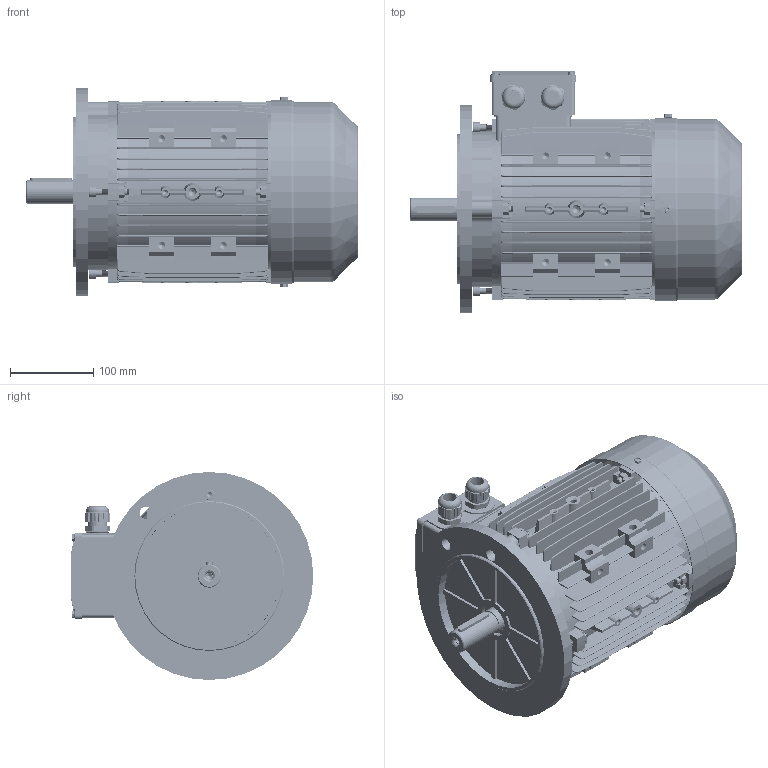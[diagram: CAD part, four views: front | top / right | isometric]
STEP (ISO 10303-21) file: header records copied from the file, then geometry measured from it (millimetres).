
FILE_DESCRIPTION (( 'STEP AP203' ), '1' );
FILE_NAME ('MSL112L assembly B5.STEP', '2017-11-26T09:59:11', ( 'user' ), ( 'china' ), 'SwSTEP 2.0', 'SolidWorks 2016', '' );
FILE_SCHEMA (( 'CONFIG_CONTROL_DESIGN' ));
Length unit declared in the file: millimetre
Products named in the file (16): GB-T 41-2000 M8; M112-132諉盄碟(苤); MSL112L assembly B5; M112傷裔B3_Post; GB-T 5780-2000 M8_040; M112-Shaft drive end; M112傷裔B5; MS132諉盄碟釱(苤)_2Holes; MS112 綴裔瑞欶郪磁_105; M112瑞欶_105; M112儂褲; GB-T 29.2-1988 M4鞠褒坋趼湍菜_05; GB-T 70.1-2000 M8_40; GB-T 29.2-1988 M5鞠褒坋趼湍菜_10; MS132諉盄碟裔(苤); M25 cable gland
Assembly tree (34 placements, depth 3):
  MSL112L assembly B5
    M112儂褲
    M112-Shaft drive end
    MS112 綴裔瑞欶郪磁_105
      M112傷裔B3_Post
      M112瑞欶_105
      GB-T 29.2-1988 M5鞠褒坋趼湍菜_10  x3
    GB-T 41-2000 M8  x8
    GB-T 70.1-2000 M8_40  x4
    M112傷裔B5
    M112-132諉盄碟(苤)
      MS132諉盄碟釱(苤)_2Holes
      MS132諉盄碟裔(苤)
      GB-T 29.2-1988 M4鞠褒坋趼湍菜_05  x4
      M25 cable gland  x2
    GB-T 5780-2000 M8_040  x4
Bounding box: 399 x 291.5 x 250 mm (x, y, z)
Volume: 2149104.9 mm3; surface area: 1133012 mm2
Topology: 34 solids, 34 shells, 5281 faces, 13552 edges, 8360 vertices
Faces by surface type: plane 2119, cylinder 1411, cone 1091, bspline 444, torus 118, sphere 98
Entity records: 133151 total; most frequent: CARTESIAN_POINT 44530, ORIENTED_EDGE 18822, DIRECTION 16902, EDGE_CURVE 9411, VERTEX_POINT 5930, AXIS2_PLACEMENT_3D 5830, VECTOR 5242, LINE 5242
